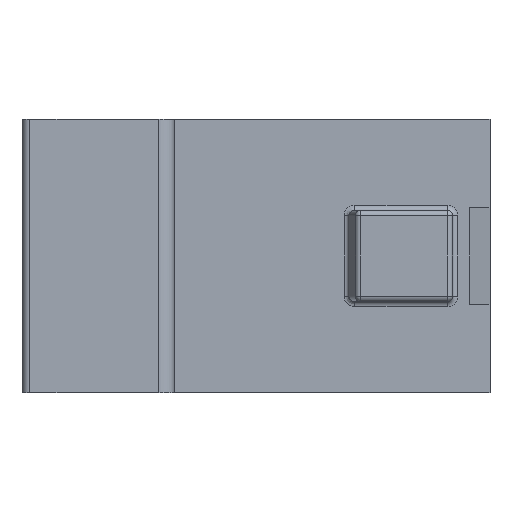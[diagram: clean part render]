
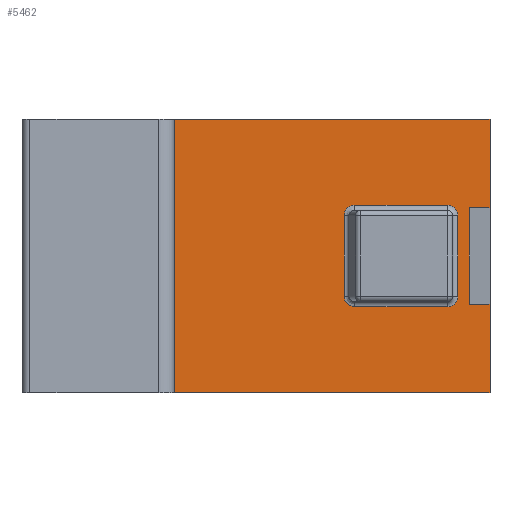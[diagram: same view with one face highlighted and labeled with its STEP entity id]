
A CAD part, front view. The second image highlights one B-rep face of the part: STEP entity #5462.
In plain terms, the highlighted planar face has unit normal (0, -1, 0).
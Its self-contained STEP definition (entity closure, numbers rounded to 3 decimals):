
#104=FACE_BOUND('',#696,.T.);
#207=CIRCLE('',#5865,2.);
#217=CIRCLE('',#5884,2.);
#333=ELLIPSE('',#5856,2.071,2.);
#335=ELLIPSE('',#5869,2.071,2.);
#369=FACE_OUTER_BOUND('',#695,.T.);
#695=EDGE_LOOP('',(#3706,#3707,#3708,#3709,#3710,#3711,#3712,#3713));
#696=EDGE_LOOP('',(#3714,#3715,#3716,#3717,#3718,#3719,#3720,#3721));
#1035=LINE('',#7910,#1678);
#1038=LINE('',#7916,#1681);
#1042=LINE('',#7923,#1685);
#1043=LINE('',#8007,#1686);
#1052=LINE('',#8043,#1695);
#1060=LINE('',#8062,#1703);
#1064=LINE('',#8068,#1707);
#1067=LINE('',#8079,#1710);
#1068=LINE('',#8080,#1711);
#1069=LINE('',#8082,#1712);
#1070=LINE('',#8084,#1713);
#1071=LINE('',#8085,#1714);
#1678=VECTOR('',#6326,10.);
#1681=VECTOR('',#6331,10.);
#1685=VECTOR('',#6337,10.);
#1686=VECTOR('',#6374,10.);
#1695=VECTOR('',#6417,10.);
#1703=VECTOR('',#6441,10.);
#1707=VECTOR('',#6449,10.);
#1710=VECTOR('',#6464,10.);
#1711=VECTOR('',#6465,10.);
#1712=VECTOR('',#6466,10.);
#1713=VECTOR('',#6467,10.);
#1714=VECTOR('',#6468,10.);
#2321=VERTEX_POINT('',#7908);
#2322=VERTEX_POINT('',#7909);
#2324=VERTEX_POINT('',#7915);
#2326=VERTEX_POINT('',#7921);
#2329=VERTEX_POINT('',#7952);
#2330=VERTEX_POINT('',#7954);
#2336=VERTEX_POINT('',#7968);
#2337=VERTEX_POINT('',#7970);
#2340=VERTEX_POINT('',#8001);
#2341=VERTEX_POINT('',#8003);
#2348=VERTEX_POINT('',#8033);
#2349=VERTEX_POINT('',#8034);
#2355=VERTEX_POINT('',#8077);
#2356=VERTEX_POINT('',#8078);
#2357=VERTEX_POINT('',#8081);
#2358=VERTEX_POINT('',#8083);
#2821=EDGE_CURVE('',#2321,#2322,#1035,.T.);
#2824=EDGE_CURVE('',#2324,#2322,#1038,.T.);
#2828=EDGE_CURVE('',#2324,#2326,#1042,.T.);
#2831=EDGE_CURVE('',#2329,#2330,#333,.T.);
#2838=EDGE_CURVE('',#2336,#2337,#207,.T.);
#2842=EDGE_CURVE('',#2340,#2341,#335,.T.);
#2844=EDGE_CURVE('',#2330,#2340,#1043,.T.);
#2858=EDGE_CURVE('',#2348,#2349,#217,.T.);
#2863=EDGE_CURVE('',#2349,#2336,#1052,.T.);
#2874=EDGE_CURVE('',#2341,#2348,#1060,.T.);
#2878=EDGE_CURVE('',#2337,#2329,#1064,.T.);
#2881=EDGE_CURVE('',#2355,#2356,#1067,.T.);
#2882=EDGE_CURVE('',#2356,#2326,#1068,.T.);
#2883=EDGE_CURVE('',#2357,#2321,#1069,.T.);
#2884=EDGE_CURVE('',#2358,#2357,#1070,.T.);
#2885=EDGE_CURVE('',#2355,#2358,#1071,.T.);
#3706=ORIENTED_EDGE('',*,*,#2881,.T.);
#3707=ORIENTED_EDGE('',*,*,#2882,.T.);
#3708=ORIENTED_EDGE('',*,*,#2828,.F.);
#3709=ORIENTED_EDGE('',*,*,#2824,.T.);
#3710=ORIENTED_EDGE('',*,*,#2821,.F.);
#3711=ORIENTED_EDGE('',*,*,#2883,.F.);
#3712=ORIENTED_EDGE('',*,*,#2884,.F.);
#3713=ORIENTED_EDGE('',*,*,#2885,.F.);
#3714=ORIENTED_EDGE('',*,*,#2858,.F.);
#3715=ORIENTED_EDGE('',*,*,#2874,.F.);
#3716=ORIENTED_EDGE('',*,*,#2842,.F.);
#3717=ORIENTED_EDGE('',*,*,#2844,.F.);
#3718=ORIENTED_EDGE('',*,*,#2831,.F.);
#3719=ORIENTED_EDGE('',*,*,#2878,.F.);
#3720=ORIENTED_EDGE('',*,*,#2838,.F.);
#3721=ORIENTED_EDGE('',*,*,#2863,.F.);
#5177=PLANE('',#5904);
#5462=ADVANCED_FACE('',(#369,#104),#5177,.T.);
#5856=AXIS2_PLACEMENT_3D('',#7955,#6342,#6343);
#5865=AXIS2_PLACEMENT_3D('',#7971,#6360,#6361);
#5869=AXIS2_PLACEMENT_3D('',#8004,#6368,#6369);
#5884=AXIS2_PLACEMENT_3D('',#8035,#6406,#6407);
#5904=AXIS2_PLACEMENT_3D('',#8076,#6462,#6463);
#6326=DIRECTION('',(-1.,0.,0.));
#6331=DIRECTION('',(0.,0.,1.));
#6337=DIRECTION('',(1.,0.,0.));
#6342=DIRECTION('center_axis',(0.,-1.,0.));
#6343=DIRECTION('ref_axis',(-1.,0.,0.));
#6360=DIRECTION('center_axis',(0.,-1.,0.));
#6361=DIRECTION('ref_axis',(0.707,0.,0.707));
#6368=DIRECTION('center_axis',(0.,-1.,0.));
#6369=DIRECTION('ref_axis',(-1.,0.,0.));
#6374=DIRECTION('',(0.,0.,-1.));
#6406=DIRECTION('center_axis',(0.,-1.,0.));
#6407=DIRECTION('ref_axis',(0.707,0.,-0.707));
#6417=DIRECTION('',(0.,0.,1.));
#6441=DIRECTION('',(1.,0.,0.));
#6449=DIRECTION('',(-1.,0.,0.));
#6462=DIRECTION('center_axis',(0.,-1.,0.));
#6463=DIRECTION('ref_axis',(1.,0.,0.));
#6464=DIRECTION('',(1.,0.,0.));
#6465=DIRECTION('',(0.,0.,1.));
#6466=DIRECTION('',(0.,0.,-1.));
#6467=DIRECTION('',(1.,0.,0.));
#6468=DIRECTION('',(0.,0.,1.));
#7908=CARTESIAN_POINT('',(45.,-30.,35.5));
#7909=CARTESIAN_POINT('',(41.,-30.,35.5));
#7910=CARTESIAN_POINT('',(41.,-30.,35.5));
#7915=CARTESIAN_POINT('',(41.,-30.,17.));
#7916=CARTESIAN_POINT('',(41.,-30.,0.));
#7921=CARTESIAN_POINT('',(45.,-30.,17.));
#7923=CARTESIAN_POINT('',(45.,-30.,17.));
#7952=CARTESIAN_POINT('',(19.003,-30.,36.));
#7954=CARTESIAN_POINT('',(16.933,-30.,34.));
#7955=CARTESIAN_POINT('Origin',(19.003,-30.,34.));
#7968=CARTESIAN_POINT('',(38.8,-30.,34.));
#7970=CARTESIAN_POINT('',(36.8,-30.,36.));
#7971=CARTESIAN_POINT('Origin',(36.8,-30.,34.));
#8001=CARTESIAN_POINT('',(16.933,-30.,18.5));
#8003=CARTESIAN_POINT('',(19.003,-30.,16.5));
#8004=CARTESIAN_POINT('Origin',(19.003,-30.,18.5));
#8007=CARTESIAN_POINT('',(16.933,-30.,0.));
#8033=CARTESIAN_POINT('',(36.8,-30.,16.5));
#8034=CARTESIAN_POINT('',(38.8,-30.,18.5));
#8035=CARTESIAN_POINT('Origin',(36.8,-30.,18.5));
#8043=CARTESIAN_POINT('',(38.8,-30.,0.));
#8062=CARTESIAN_POINT('',(24.121,-30.,16.5));
#8068=CARTESIAN_POINT('',(37.8,-30.,36.));
#8076=CARTESIAN_POINT('Origin',(37.8,-30.,0.));
#8077=CARTESIAN_POINT('',(-17.7,-30.,0.));
#8078=CARTESIAN_POINT('',(45.,-30.,0.));
#8079=CARTESIAN_POINT('',(-17.7,-30.,0.));
#8080=CARTESIAN_POINT('',(45.,-30.,0.));
#8081=CARTESIAN_POINT('',(45.,-30.,52.5));
#8082=CARTESIAN_POINT('',(45.,-30.,52.5));
#8083=CARTESIAN_POINT('',(-17.7,-30.,52.5));
#8084=CARTESIAN_POINT('',(-17.7,-30.,52.5));
#8085=CARTESIAN_POINT('',(-17.7,-30.,0.));
